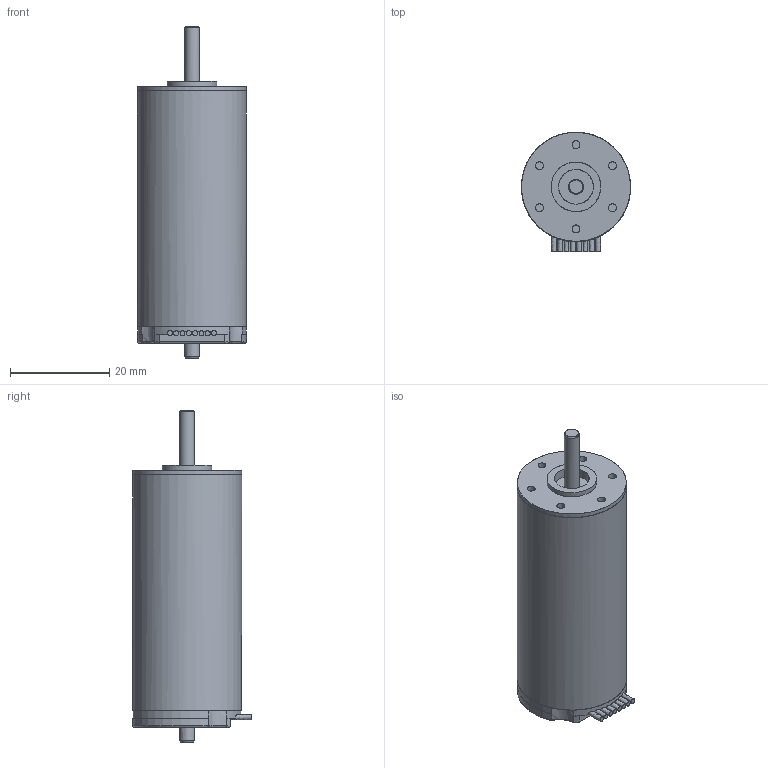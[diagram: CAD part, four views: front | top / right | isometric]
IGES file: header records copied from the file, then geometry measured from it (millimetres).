
Global section: file name: R:\a_public\Organisationsentwicklung\Aufgaben\CAD_Modelle_Vertrieb\Motor\22xx_BX4\2250.BX4.igs; native system: NX V7.5; preprocessor: SIEMENS PLM Software NX 7.5; author: DR. FRITZ FAULHABER GmbH & Co. KG; organization: DR. FRITZ FAULHABER GmbH & Co. KG; date: 20121031.103308; units: millimetre
Bounding box: 22 x 24 x 67 mm (x, y, z)
Surface area: 4766.3 mm2 (no closed solid volume)
Topology: 0 solids, 0 shells, 102 faces, 768 edges, 738 vertices
Faces by surface type: bspline 102
